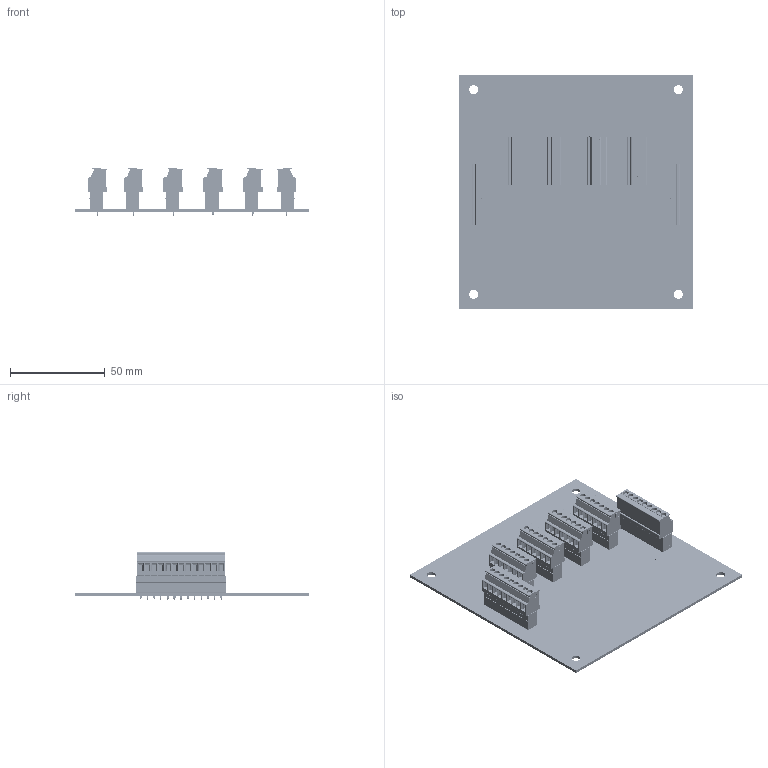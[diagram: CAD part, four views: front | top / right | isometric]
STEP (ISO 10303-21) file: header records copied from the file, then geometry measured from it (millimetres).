
FILE_DESCRIPTION (( 'STEP AP203' ), '1' );
FILE_NAME ('HI6020JB-SC1.STEP', '2021-06-10T19:42:54', ( '' ), ( '' ), 'SwSTEP 2.0', 'SolidWorks 2020', '' );
FILE_SCHEMA (( 'CONFIG_CONTROL_DESIGN' ));
Length unit declared in the file: inch
Products named in the file (7): HI6020JB-SC1; 2140-0136-07-0; 2140-0137-09-0; 2140-0137-07-0; 2140-0136-09-0; 0535-0573-XX-0; 0534-0573-01-0
Assembly tree (14 placements, depth 3):
  HI6020JB-SC1
    0535-0573-XX-0
      0534-0573-01-0
      2140-0136-07-0  x4
      2140-0137-07-0  x4
      2140-0136-09-0  x2
      2140-0137-09-0  x2
Bounding box: 123.83 x 123.83 x 25.1 mm (x, y, z)
Volume: 50898.3 mm3; surface area: 63922.6 mm2
Topology: 317 solids, 317 shells, 9894 faces, 25176 edges, 16550 vertices
Faces by surface type: plane 6889, cylinder 1810, bspline 1103, cone 92
Entity records: 240329 total; most frequent: CARTESIAN_POINT 104671, ORIENTED_EDGE 29632, DIRECTION 23588, EDGE_CURVE 14816, VECTOR 10730, LINE 10730, VERTEX_POINT 9796, AXIS2_PLACEMENT_3D 6429
